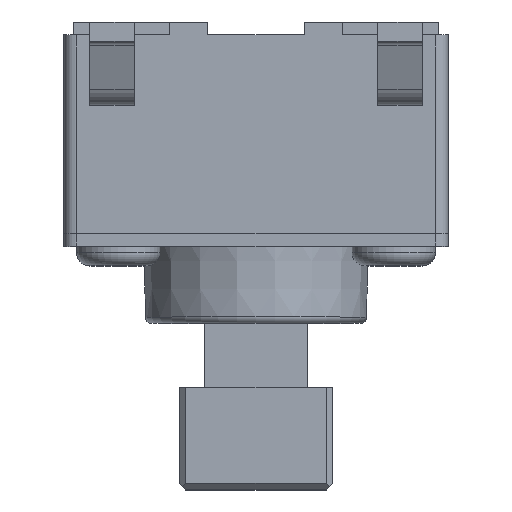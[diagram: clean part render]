
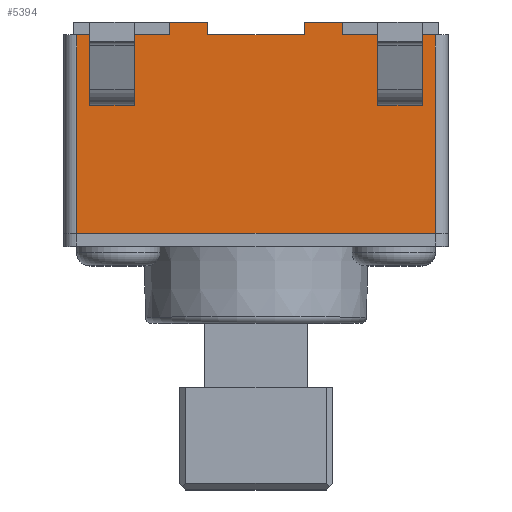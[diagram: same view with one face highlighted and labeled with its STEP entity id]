
A CAD part, top view. The second image highlights one B-rep face of the part: STEP entity #5394.
In plain terms, the highlighted planar face has unit normal (0, 0, 1).
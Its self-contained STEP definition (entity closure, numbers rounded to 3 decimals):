
#946=DIRECTION('',(1.,0.,0.));
#947=VECTOR('',#946,5.6);
#948=CARTESIAN_POINT('',(-2.8,0.,3.));
#949=LINE('',#948,#947);
#2434=DIRECTION('',(0.,-1.,0.));
#2435=VECTOR('',#2434,0.3);
#2436=CARTESIAN_POINT('',(-2.6,2.3,3.));
#2437=LINE('',#2436,#2435);
#2441=DIRECTION('',(1.,0.,0.));
#2442=VECTOR('',#2441,0.7);
#2443=CARTESIAN_POINT('',(-2.6,2.,3.));
#2444=LINE('',#2443,#2442);
#2448=DIRECTION('',(0.,-1.,0.));
#2449=VECTOR('',#2448,0.3);
#2450=CARTESIAN_POINT('',(-1.9,2.3,3.));
#2451=LINE('',#2450,#2449);
#2455=DIRECTION('',(1.,0.,0.));
#2456=VECTOR('',#2455,0.7);
#2457=CARTESIAN_POINT('',(-2.6,2.3,3.));
#2458=LINE('',#2457,#2456);
#2462=DIRECTION('',(0.,-1.,0.));
#2463=VECTOR('',#2462,0.3);
#2464=CARTESIAN_POINT('',(2.6,2.3,3.));
#2465=LINE('',#2464,#2463);
#2469=DIRECTION('',(-1.,0.,0.));
#2470=VECTOR('',#2469,0.7);
#2471=CARTESIAN_POINT('',(2.6,2.3,3.));
#2472=LINE('',#2471,#2470);
#2476=DIRECTION('',(0.,-1.,0.));
#2477=VECTOR('',#2476,0.3);
#2478=CARTESIAN_POINT('',(1.9,2.3,3.));
#2479=LINE('',#2478,#2477);
#2483=DIRECTION('',(-1.,0.,0.));
#2484=VECTOR('',#2483,0.7);
#2485=CARTESIAN_POINT('',(2.6,2.,3.));
#2486=LINE('',#2485,#2484);
#2490=DIRECTION('',(1.,0.,0.));
#2491=VECTOR('',#2490,1.45);
#2492=CARTESIAN_POINT('',(-2.8,3.1,3.));
#2493=LINE('',#2492,#2491);
#2497=DIRECTION('',(0.,-1.,0.));
#2498=VECTOR('',#2497,0.2);
#2499=CARTESIAN_POINT('',(-1.35,3.3,3.));
#2500=LINE('',#2499,#2498);
#2504=DIRECTION('',(0.,-1.,0.));
#2505=VECTOR('',#2504,0.2);
#2506=CARTESIAN_POINT('',(-0.75,3.3,3.));
#2507=LINE('',#2506,#2505);
#2511=DIRECTION('',(1.,0.,0.));
#2512=VECTOR('',#2511,1.5);
#2513=CARTESIAN_POINT('',(-0.75,3.1,3.));
#2514=LINE('',#2513,#2512);
#2518=DIRECTION('',(0.,-1.,0.));
#2519=VECTOR('',#2518,0.2);
#2520=CARTESIAN_POINT('',(0.75,3.3,3.));
#2521=LINE('',#2520,#2519);
#2525=DIRECTION('',(0.,-1.,0.));
#2526=VECTOR('',#2525,0.2);
#2527=CARTESIAN_POINT('',(1.35,3.3,3.));
#2528=LINE('',#2527,#2526);
#2532=DIRECTION('',(1.,0.,0.));
#2533=VECTOR('',#2532,1.45);
#2534=CARTESIAN_POINT('',(1.35,3.1,3.));
#2535=LINE('',#2534,#2533);
#2539=DIRECTION('',(0.,-1.,0.));
#2540=VECTOR('',#2539,3.1);
#2541=CARTESIAN_POINT('',(2.8,3.1,3.));
#2542=LINE('',#2541,#2540);
#2546=DIRECTION('',(0.,-1.,0.));
#2547=VECTOR('',#2546,3.1);
#2548=CARTESIAN_POINT('',(-2.8,3.1,3.));
#2549=LINE('',#2548,#2547);
#3189=DIRECTION('',(1.,0.,0.));
#3190=VECTOR('',#3189,0.6);
#3191=CARTESIAN_POINT('',(-1.35,3.3,3.));
#3192=LINE('',#3191,#3190);
#3329=DIRECTION('',(1.,0.,0.));
#3330=VECTOR('',#3329,0.6);
#3331=CARTESIAN_POINT('',(0.75,3.3,3.));
#3332=LINE('',#3331,#3330);
#3540=CARTESIAN_POINT('',(-1.35,3.1,3.));
#3541=VERTEX_POINT('',#3540);
#3543=CARTESIAN_POINT('',(-0.75,3.1,3.));
#3545=VERTEX_POINT('',#3543);
#3546=CARTESIAN_POINT('',(0.75,3.1,3.));
#3548=VERTEX_POINT('',#3546);
#3550=CARTESIAN_POINT('',(1.35,3.1,3.));
#3551=VERTEX_POINT('',#3550);
#3670=CARTESIAN_POINT('',(-2.6,2.3,3.));
#3671=CARTESIAN_POINT('',(-2.6,2.,3.));
#3672=VERTEX_POINT('',#3670);
#3673=VERTEX_POINT('',#3671);
#3674=CARTESIAN_POINT('',(-1.9,2.3,3.));
#3675=CARTESIAN_POINT('',(-1.9,2.,3.));
#3676=VERTEX_POINT('',#3674);
#3677=VERTEX_POINT('',#3675);
#3686=CARTESIAN_POINT('',(2.6,2.3,3.));
#3687=CARTESIAN_POINT('',(2.6,2.,3.));
#3688=VERTEX_POINT('',#3686);
#3689=VERTEX_POINT('',#3687);
#3690=CARTESIAN_POINT('',(1.9,2.3,3.));
#3691=CARTESIAN_POINT('',(1.9,2.,3.));
#3692=VERTEX_POINT('',#3690);
#3693=VERTEX_POINT('',#3691);
#3827=CARTESIAN_POINT('',(2.8,0.,3.));
#3829=VERTEX_POINT('',#3827);
#3834=CARTESIAN_POINT('',(-2.8,0.,3.));
#3836=VERTEX_POINT('',#3834);
#3840=CARTESIAN_POINT('',(-1.35,3.3,3.));
#3841=VERTEX_POINT('',#3840);
#3842=CARTESIAN_POINT('',(-0.75,3.3,3.));
#3844=VERTEX_POINT('',#3842);
#3846=CARTESIAN_POINT('',(0.75,3.3,3.));
#3848=VERTEX_POINT('',#3846);
#3850=CARTESIAN_POINT('',(1.35,3.3,3.));
#3851=VERTEX_POINT('',#3850);
#3862=CARTESIAN_POINT('',(-2.8,3.1,3.));
#3863=VERTEX_POINT('',#3862);
#3864=CARTESIAN_POINT('',(2.8,3.1,3.));
#3865=VERTEX_POINT('',#3864);
#5350=CARTESIAN_POINT('',(-3.,0.,3.));
#5351=DIRECTION('',(0.,0.,1.));
#5352=DIRECTION('',(1.,0.,0.));
#5353=AXIS2_PLACEMENT_3D('',#5350,#5351,#5352);
#5354=PLANE('',#5353);
#5355=ORIENTED_EDGE('',*,*,#4824,.T.);
#5357=ORIENTED_EDGE('',*,*,#5356,.F.);
#5359=ORIENTED_EDGE('',*,*,#5358,.T.);
#5361=ORIENTED_EDGE('',*,*,#5360,.T.);
#5362=ORIENTED_EDGE('',*,*,#4848,.T.);
#5364=ORIENTED_EDGE('',*,*,#5363,.F.);
#5366=ORIENTED_EDGE('',*,*,#5365,.T.);
#5368=ORIENTED_EDGE('',*,*,#5367,.T.);
#5369=ORIENTED_EDGE('',*,*,#4883,.T.);
#5371=ORIENTED_EDGE('',*,*,#5370,.T.);
#5372=ORIENTED_EDGE('',*,*,#3949,.F.);
#5374=ORIENTED_EDGE('',*,*,#5373,.F.);
#5375=EDGE_LOOP('',(#5355,#5357,#5359,#5361,#5362,#5364,#5366,#5368,#5369,#5371,
#5372,#5374));
#5376=FACE_OUTER_BOUND('',#5375,.F.);
#5378=ORIENTED_EDGE('',*,*,#5377,.F.);
#5380=ORIENTED_EDGE('',*,*,#5379,.T.);
#5382=ORIENTED_EDGE('',*,*,#5381,.T.);
#5384=ORIENTED_EDGE('',*,*,#5383,.F.);
#5385=EDGE_LOOP('',(#5378,#5380,#5382,#5384));
#5386=FACE_BOUND('',#5385,.F.);
#5387=ORIENTED_EDGE('',*,*,#4964,.T.);
#5389=ORIENTED_EDGE('',*,*,#5388,.T.);
#5390=ORIENTED_EDGE('',*,*,#5135,.F.);
#5391=ORIENTED_EDGE('',*,*,#5331,.F.);
#5392=EDGE_LOOP('',(#5387,#5389,#5390,#5391));
#5393=FACE_BOUND('',#5392,.F.);
#3949=EDGE_CURVE('',#3836,#3829,#949,.T.);
#4824=EDGE_CURVE('',#3863,#3541,#2493,.T.);
#4848=EDGE_CURVE('',#3545,#3548,#2514,.T.);
#4883=EDGE_CURVE('',#3551,#3865,#2535,.T.);
#4964=EDGE_CURVE('',#3672,#3673,#2437,.T.);
#5135=EDGE_CURVE('',#3676,#3677,#2451,.T.);
#5331=EDGE_CURVE('',#3672,#3676,#2458,.T.);
#5356=EDGE_CURVE('',#3841,#3541,#2500,.T.);
#5358=EDGE_CURVE('',#3841,#3844,#3192,.T.);
#5360=EDGE_CURVE('',#3844,#3545,#2507,.T.);
#5363=EDGE_CURVE('',#3848,#3548,#2521,.T.);
#5365=EDGE_CURVE('',#3848,#3851,#3332,.T.);
#5367=EDGE_CURVE('',#3851,#3551,#2528,.T.);
#5370=EDGE_CURVE('',#3865,#3829,#2542,.T.);
#5373=EDGE_CURVE('',#3863,#3836,#2549,.T.);
#5377=EDGE_CURVE('',#3688,#3689,#2465,.T.);
#5379=EDGE_CURVE('',#3688,#3692,#2472,.T.);
#5381=EDGE_CURVE('',#3692,#3693,#2479,.T.);
#5383=EDGE_CURVE('',#3689,#3693,#2486,.T.);
#5388=EDGE_CURVE('',#3673,#3677,#2444,.T.);
#5394=ADVANCED_FACE('',(#5376,#5386,#5393),#5354,.T.);
